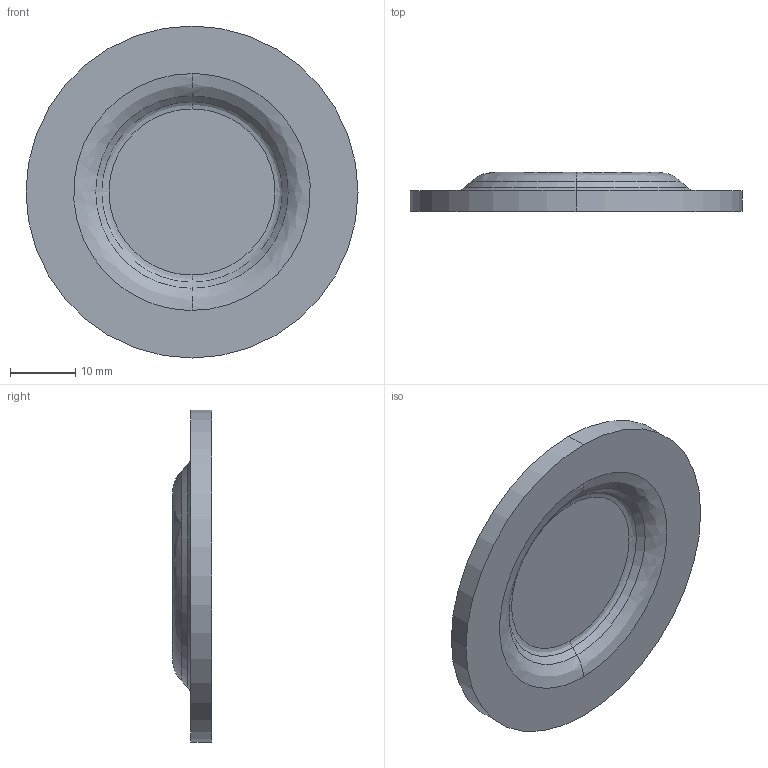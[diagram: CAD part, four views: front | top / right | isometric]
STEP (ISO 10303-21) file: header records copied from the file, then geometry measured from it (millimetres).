
FILE_DESCRIPTION (( 'STEP AP214' ), '1' );
FILE_NAME ('SO 1823844-10.STEP', '2024-09-16T15:39:08', ( '' ), ( '' ), 'SwSTEP 2.0', 'SolidWorks 2024', '' );
FILE_SCHEMA (( 'AUTOMOTIVE_DESIGN' ));
Length unit declared in the file: inch
Products named in the file (1): SO 1823844-10
Bounding box: 50.8 x 5.97 x 50.8 mm (x, y, z)
Volume: 6707.2 mm3; surface area: 4731.1 mm2
Topology: 1 solids, 1 shells, 18 faces, 34 edges, 20 vertices
Faces by surface type: bspline 8, cone 4, plane 4, cylinder 2
Entity records: 755 total; most frequent: CARTESIAN_POINT 401, ORIENTED_EDGE 68, DIRECTION 68, EDGE_CURVE 34, AXIS2_PLACEMENT_3D 31, VERTEX_POINT 20, CIRCLE 20, EDGE_LOOP 20
